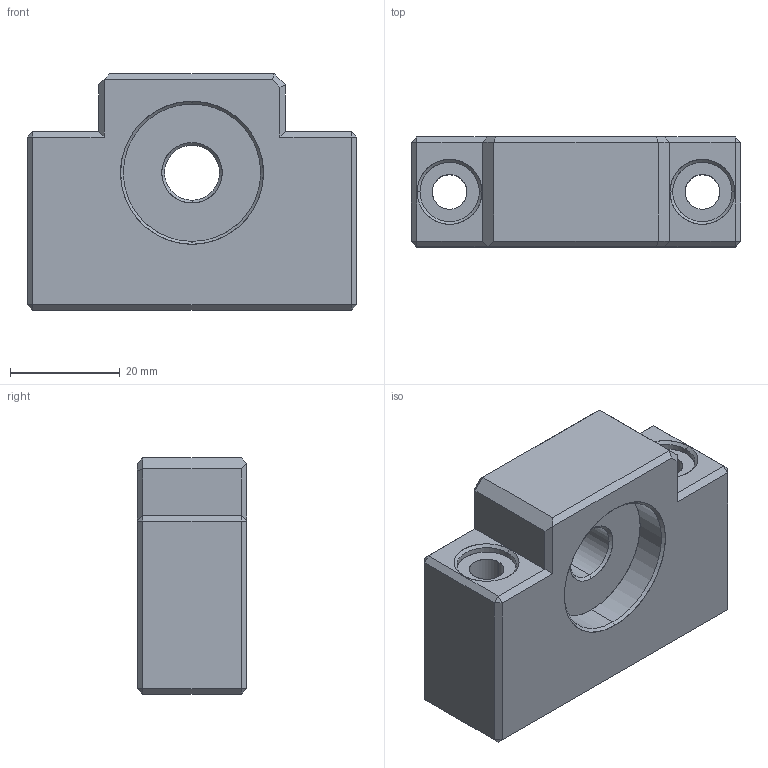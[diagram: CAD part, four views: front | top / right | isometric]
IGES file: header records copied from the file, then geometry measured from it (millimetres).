
Start section: SolidWorks IGES file using analytic representation for surfaces
Global section: file name: E:\同创达图纸\产品示意图\2D选型图\支撑座\BF系列\BF12\BF12.IGS; native system: SolidWorks 2012; preprocessor: SolidWorks 2012; author: Administrator; date: 131220.090203; units: millimetre
Bounding box: 60 x 20 x 43 mm (x, y, z)
Surface area: 10539.6 mm2 (no closed solid volume)
Topology: 0 solids, 0 shells, 77 faces, 744 edges, 744 vertices
Faces by surface type: bspline 47, revolution 30
